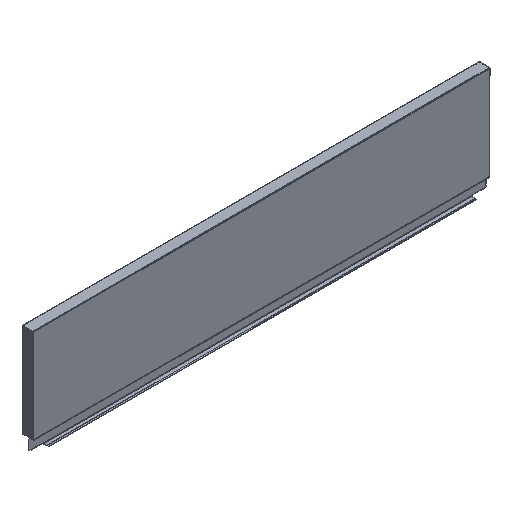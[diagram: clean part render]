
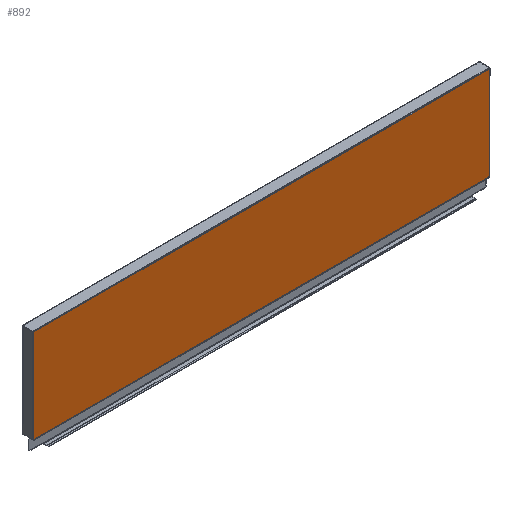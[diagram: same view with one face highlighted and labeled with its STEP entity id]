
A CAD part, isometric view. The second image highlights one B-rep face of the part: STEP entity #892.
In plain terms, the highlighted planar face has unit normal (0, -1, 0).
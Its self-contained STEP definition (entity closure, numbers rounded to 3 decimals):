
#33 = VERTEX_POINT ( 'NONE', #425 ) ;
#73 = VERTEX_POINT ( 'NONE', #416 ) ;
#308 = CARTESIAN_POINT ( 'NONE',  ( 328.5, -6., 17. ) ) ;
#310 = CARTESIAN_POINT ( 'NONE',  ( -329., -6., 17.5 ) ) ;
#329 = CARTESIAN_POINT ( 'NONE',  ( 329., -6., 151.5 ) ) ;
#339 = CARTESIAN_POINT ( 'NONE',  ( 328.5, -6., 17.5 ) ) ;
#344 = CARTESIAN_POINT ( 'NONE',  ( -328.5, -6., 17. ) ) ;
#347 = CARTESIAN_POINT ( 'NONE',  ( 329., -6., 17.5 ) ) ;
#352 = CARTESIAN_POINT ( 'NONE',  ( 329., -6., 152. ) ) ;
#360 = CARTESIAN_POINT ( 'NONE',  ( -329., -6., 152. ) ) ;
#416 = CARTESIAN_POINT ( 'NONE',  ( -329., -6., 151.5 ) ) ;
#425 = CARTESIAN_POINT ( 'NONE',  ( -328.5, -6., 17.5 ) ) ;
#438 = VERTEX_POINT ( 'NONE', #360 ) ;
#446 = VERTEX_POINT ( 'NONE', #352 ) ;
#450 = VERTEX_POINT ( 'NONE', #347 ) ;
#452 = VERTEX_POINT ( 'NONE', #344 ) ;
#456 = VERTEX_POINT ( 'NONE', #339 ) ;
#471 = VERTEX_POINT ( 'NONE', #329 ) ;
#505 = VERTEX_POINT ( 'NONE', #310 ) ;
#507 = VERTEX_POINT ( 'NONE', #308 ) ;
#710 = EDGE_CURVE ( 'NONE', #438, #73, #2301, .T. ) ;
#711 = EDGE_CURVE ( 'NONE', #438, #446, #2303, .T. ) ;
#712 = EDGE_CURVE ( 'NONE', #446, #471, #2305, .T. ) ;
#713 = EDGE_CURVE ( 'NONE', #471, #450, #2307, .T. ) ;
#714 = EDGE_CURVE ( 'NONE', #456, #450, #2309, .T. ) ;
#715 = EDGE_CURVE ( 'NONE', #507, #456, #2311, .T. ) ;
#716 = EDGE_CURVE ( 'NONE', #452, #507, #2313, .T. ) ;
#717 = EDGE_CURVE ( 'NONE', #33, #452, #2315, .T. ) ;
#718 = EDGE_CURVE ( 'NONE', #505, #33, #2317, .T. ) ;
#723 = EDGE_CURVE ( 'NONE', #73, #505, #2325, .T. ) ;
#805 = AXIS2_PLACEMENT_3D ( 'NONE', #1251, #1250, #1248 ) ;
#892 = ADVANCED_FACE ( 'NONE', ( #2378 ), #1252, .T. ) ;
#1082 = EDGE_LOOP ( 'NONE', ( #1975, #1974, #1973, #1972, #1971, #1970, #1969, #1968, #1967, #1966 ) ) ;
#1248 = DIRECTION ( 'NONE',  ( 1., 0., 0. ) ) ;
#1250 = DIRECTION ( 'NONE',  ( 0., -1., 0. ) ) ;
#1251 = CARTESIAN_POINT ( 'NONE',  ( -330., -6., 17. ) ) ;
#1252 = PLANE ( 'NONE',  #805 ) ;
#1449 = DIRECTION ( 'NONE',  ( 0., 0., -1. ) ) ;
#1450 = CARTESIAN_POINT ( 'NONE',  ( -329., -6., 170.385 ) ) ;
#1486 = DIRECTION ( 'NONE',  ( 1., 0., 0. ) ) ;
#1488 = CARTESIAN_POINT ( 'NONE',  ( -330., -6., 17.5 ) ) ;
#1491 = DIRECTION ( 'NONE',  ( 0., 0., -1. ) ) ;
#1492 = CARTESIAN_POINT ( 'NONE',  ( -328.5, -6., 17.5 ) ) ;
#1494 = DIRECTION ( 'NONE',  ( 1., 0., 0. ) ) ;
#1495 = CARTESIAN_POINT ( 'NONE',  ( -330., -6., 17. ) ) ;
#1496 = DIRECTION ( 'NONE',  ( 0., 0., 1. ) ) ;
#1500 = CARTESIAN_POINT ( 'NONE',  ( 328.5, -6., 15.3 ) ) ;
#1502 = DIRECTION ( 'NONE',  ( 1., 0., 0. ) ) ;
#1503 = CARTESIAN_POINT ( 'NONE',  ( 328.5, -6., 17.5 ) ) ;
#1504 = DIRECTION ( 'NONE',  ( 0., 0., -1. ) ) ;
#1507 = CARTESIAN_POINT ( 'NONE',  ( 329., -6., 170.385 ) ) ;
#1508 = DIRECTION ( 'NONE',  ( 0., 0., -1. ) ) ;
#1509 = CARTESIAN_POINT ( 'NONE',  ( 329., -6., 170.385 ) ) ;
#1510 = DIRECTION ( 'NONE',  ( 1., 0., 0. ) ) ;
#1512 = CARTESIAN_POINT ( 'NONE',  ( -330., -6., 152. ) ) ;
#1513 = DIRECTION ( 'NONE',  ( 0., 0., -1. ) ) ;
#1515 = CARTESIAN_POINT ( 'NONE',  ( -329., -6., 170.385 ) ) ;
#1966 = ORIENTED_EDGE ( 'NONE', *, *, #710, .T. ) ;
#1967 = ORIENTED_EDGE ( 'NONE', *, *, #711, .F. ) ;
#1968 = ORIENTED_EDGE ( 'NONE', *, *, #712, .F. ) ;
#1969 = ORIENTED_EDGE ( 'NONE', *, *, #713, .F. ) ;
#1970 = ORIENTED_EDGE ( 'NONE', *, *, #714, .T. ) ;
#1971 = ORIENTED_EDGE ( 'NONE', *, *, #715, .T. ) ;
#1972 = ORIENTED_EDGE ( 'NONE', *, *, #716, .T. ) ;
#1973 = ORIENTED_EDGE ( 'NONE', *, *, #717, .T. ) ;
#1974 = ORIENTED_EDGE ( 'NONE', *, *, #718, .T. ) ;
#1975 = ORIENTED_EDGE ( 'NONE', *, *, #723, .T. ) ;
#2301 = LINE ( 'NONE', #1515, #2302 ) ;
#2302 = VECTOR ( 'NONE', #1513, 1000. ) ;
#2303 = LINE ( 'NONE', #1512, #2304 ) ;
#2304 = VECTOR ( 'NONE', #1510, 1000. ) ;
#2305 = LINE ( 'NONE', #1509, #2306 ) ;
#2306 = VECTOR ( 'NONE', #1508, 1000. ) ;
#2307 = LINE ( 'NONE', #1507, #2308 ) ;
#2308 = VECTOR ( 'NONE', #1504, 1000. ) ;
#2309 = LINE ( 'NONE', #1503, #2310 ) ;
#2310 = VECTOR ( 'NONE', #1502, 1000. ) ;
#2311 = LINE ( 'NONE', #1500, #2312 ) ;
#2312 = VECTOR ( 'NONE', #1496, 1000. ) ;
#2313 = LINE ( 'NONE', #1495, #2314 ) ;
#2314 = VECTOR ( 'NONE', #1494, 1000. ) ;
#2315 = LINE ( 'NONE', #1492, #2316 ) ;
#2316 = VECTOR ( 'NONE', #1491, 1000. ) ;
#2317 = LINE ( 'NONE', #1488, #2318 ) ;
#2318 = VECTOR ( 'NONE', #1486, 1000. ) ;
#2325 = LINE ( 'NONE', #1450, #2326 ) ;
#2326 = VECTOR ( 'NONE', #1449, 1000. ) ;
#2378 = FACE_OUTER_BOUND ( 'NONE', #1082, .T. ) ;
